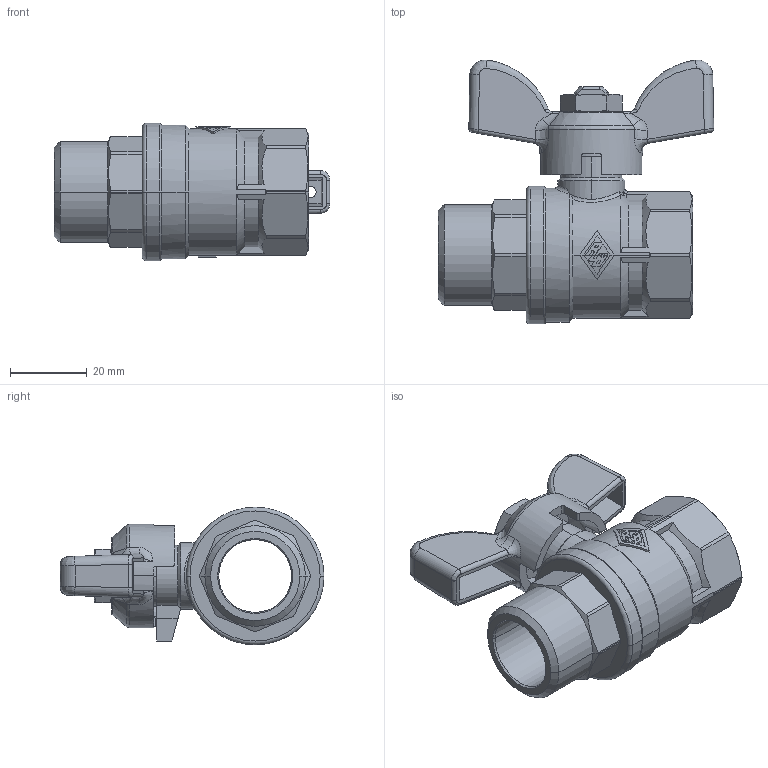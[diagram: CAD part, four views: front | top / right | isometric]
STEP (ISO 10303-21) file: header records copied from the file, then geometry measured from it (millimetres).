
FILE_DESCRIPTION(('OneSpaceDesigner STEP Export'),'2;1');
FILE_NAME('1521050000.stp','2009-04-22T17:02:45',(''),(''),'OneSpace Designer STEP processor for AP214 (Solid Model)','OneSpace Modeling 15.50C 25-Jan-2008 (C) CoCreate Software GmbH','');
FILE_SCHEMA(('AUTOMOTIVE_DESIGN { 1 0 10303 214 1 1 1 1 }'));
Length unit declared in the file: millimetre
Products named in the file (2): 1521050000
Assembly tree (1 placements, depth 2):
  1521050000
    1521050000
Bounding box: 72 x 69 x 36 mm (x, y, z)
Volume: 41137.2 mm3; surface area: 20353 mm2
Topology: 1 solids, 1 shells, 637 faces, 1746 edges, 1118 vertices
Faces by surface type: plane 299, cylinder 181, cone 86, bspline 49, torus 22
Entity records: 36511 total; most frequent: CARTESIAN_POINT 20230, ORIENTED_EDGE 3488, DIRECTION 2518, EDGE_CURVE 1744, VERTEX_POINT 1118, AXIS2_PLACEMENT_3D 955, EDGE_LOOP 660, FACE_OUTER_BOUND 637
